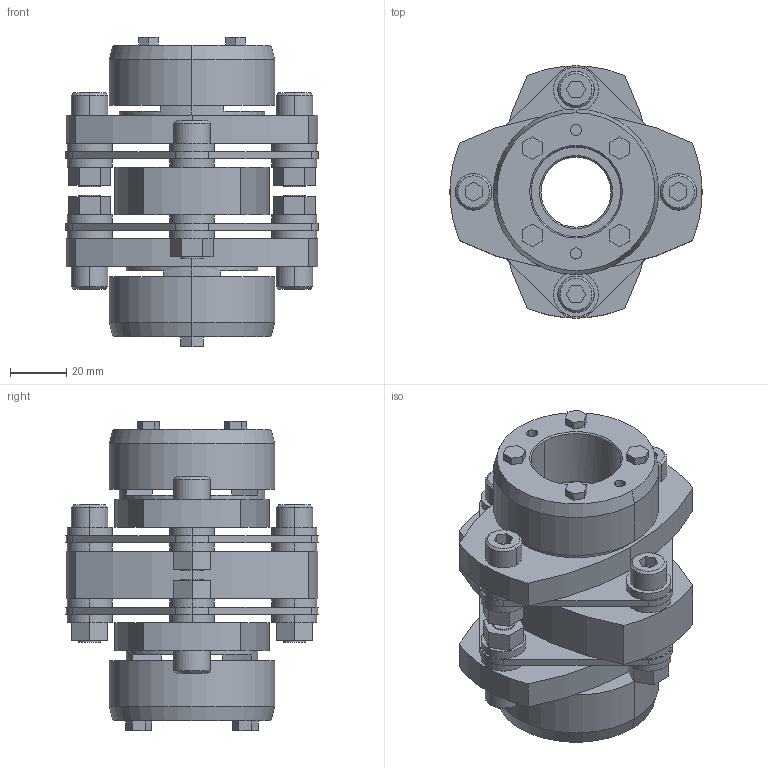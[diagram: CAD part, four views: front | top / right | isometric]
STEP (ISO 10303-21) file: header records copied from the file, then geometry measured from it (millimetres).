
FILE_DESCRIPTION((''),'2;1');
FILE_NAME('LCD-90T7-25×32.stp','2011-09-12T09:56:03',(''),(''),'AutoCAD STEP 2000i','AutoCAD 2000i',', , ');
FILE_SCHEMA(('CONFIG_CONTROL_DESIGN'));
Length unit declared in the file: millimetre
Products named in the file (9): LCD-90T7-25×32; 忣兜1; LC90T7-T032; LC90T7-T030; LC90T7-T025-1; LC90T7-T025; LC90T7-T019-1; LC90T7-T019; LCD90-ITA
Assembly tree (8 placements, depth 2):
  LCD-90T7-25×32
    忣兜1
    LC90T7-T032
    LC90T7-T030
    LC90T7-T025-1
    LC90T7-T025
    LC90T7-T019-1
    LC90T7-T019
    LCD90-ITA
Bounding box: 90 x 89.94 x 110.3 mm (x, y, z)
Volume: 256729.6 mm3; surface area: 72694.2 mm2
Topology: 1 solids, 1 shells, 320 faces, 780 edges, 512 vertices
Faces by surface type: plane 176, cylinder 120, cone 24
Entity records: 9691 total; most frequent: DIRECTION 1718, CARTESIAN_POINT 1621, ORIENTED_EDGE 1560, EDGE_CURVE 780, AXIS2_PLACEMENT_3D 609, VERTEX_POINT 512, VECTOR 500, LINE 500
